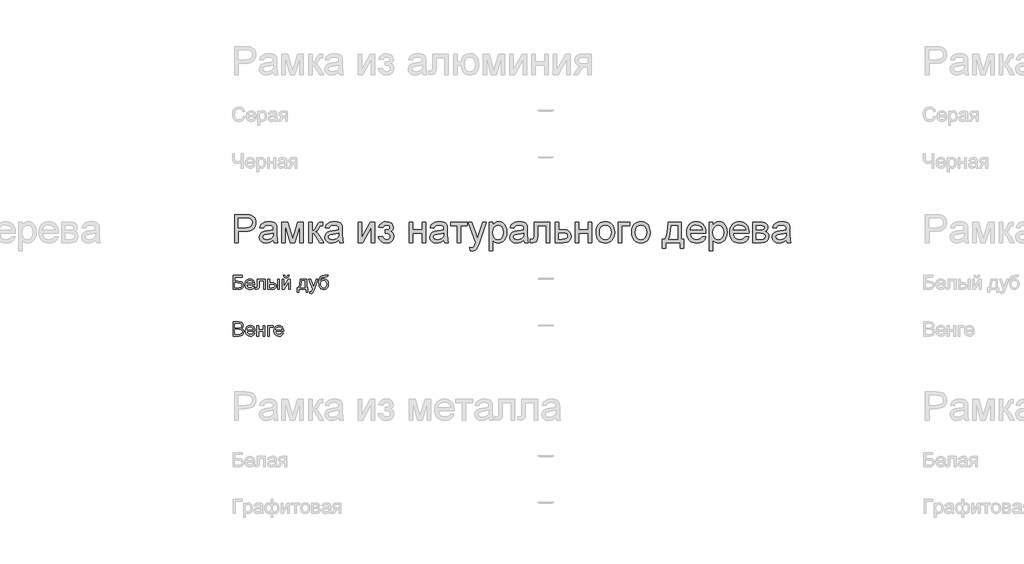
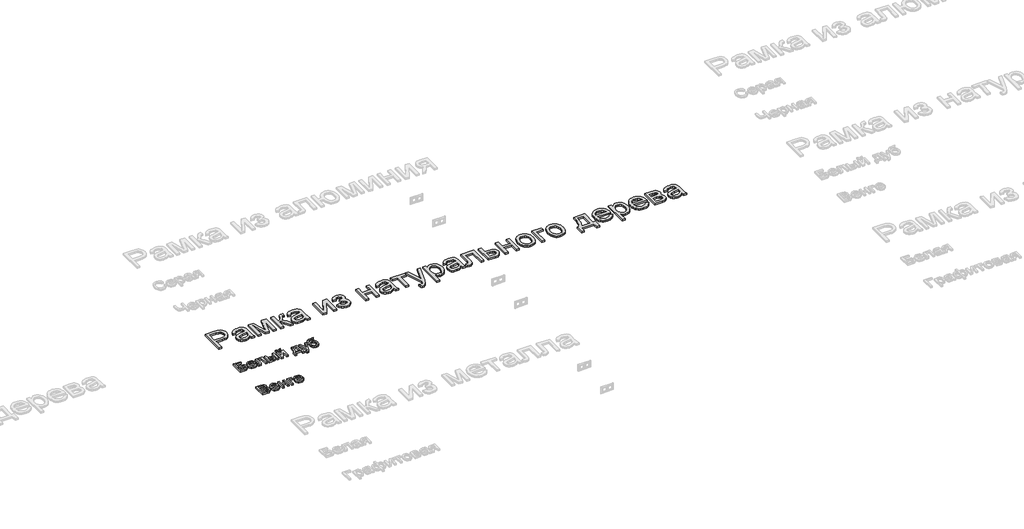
# One storey, part 114 of 168: 3 proxies.
"""IFC4 building model written with IfcOpenShell, lengths in millimetres."""

import ifcopenshell
import ifcopenshell.guid

model = None  # the IFC model being written
_history = None  # IfcOwnerHistory: only IFC2X3 demands one
_inside = {}  # id of a spatial element -> (the spatial element, [elements in it])
_under = {}  # id of a project, library or spatial element -> (it, [spatial elements below it])
_declared = {}  # id of a project -> (the project, [libraries it declares])
_typed = {}  # id of a type object -> (the type object, [elements of that type])
_made_of = {}  # id of a material, layer set ... -> (it, [elements and type objects made of it])


def new_model(schema):
    """Start an empty IFC model of exactly this schema.

    Asked for "IFC4X3", IfcOpenShell would pick the latest addendum, in which some entities
    have other attributes; the version numbers below select the first issue.
    IFC2X3 requires an IfcOwnerHistory on every rooted entity: one is made here for all.
    """
    global model, _history
    if schema == "IFC4X3":
        model = ifcopenshell.file(schema_version=(4, 3, 0, 0))
    else:
        model = ifcopenshell.file(schema=schema)
    _inside.clear()
    _under.clear()
    _declared.clear()
    _typed.clear()
    _made_of.clear()
    _history = None
    if model.schema == "IFC2X3":
        org = make("IfcOrganization", Name="unknown")
        user = make(
            "IfcPersonAndOrganization",
            ThePerson=make("IfcPerson", FamilyName="unknown"),
            TheOrganization=org,
        )
        app = make(
            "IfcApplication",
            ApplicationDeveloper=org,
            Version="unknown",
            ApplicationFullName="unknown",
            ApplicationIdentifier="unknown",
        )
        _history = make(
            "IfcOwnerHistory",
            OwningUser=user,
            OwningApplication=app,
            ChangeAction="ADDED",
            CreationDate=0,
        )
    return model


def make(cls, **values):
    """One entity of the class cls with the attributes given. An attribute that is None is left unset."""
    return model.create_entity(
        cls, **{name: value for name, value in values.items() if value is not None}
    )


def rooted(cls, **values):
    """An entity with a GlobalId (a new one), such as an element, a storey or a relation."""
    return make(cls, GlobalId=ifcopenshell.guid.new(), OwnerHistory=_history, **values)


def si_unit(unit_type, name, prefix=None):
    """IfcSIUnit, for example si_unit("LENGTHUNIT", "METRE", prefix="MILLI")."""
    return make("IfcSIUnit", UnitType=unit_type, Prefix=prefix, Name=name)


def assignment(units):
    """IfcUnitAssignment: the units of a project."""
    return None if units is None else make("IfcUnitAssignment", Units=units)


def point(xyz):
    """IfcCartesianPoint."""
    return None if xyz is None else make("IfcCartesianPoint", Coordinates=xyz)


def direction(xyz):
    """IfcDirection."""
    return None if xyz is None else make("IfcDirection", DirectionRatios=xyz)


def frame(location, z_axis=None, x_axis=None):
    """IfcAxis2Placement3D, a coordinate frame: its origin and axes. An axis left out is left unset."""
    return make(
        "IfcAxis2Placement3D",
        Location=point(location),
        Axis=direction(z_axis),
        RefDirection=direction(x_axis),
    )


def origin():
    """The frame at (0, 0, 0) with its axes left unset."""
    return frame((0.0, 0.0, 0.0))


def origin_with_axes():
    """The frame at (0, 0, 0) with the z axis (0, 0, 1) and the x axis (1, 0, 0) written out."""
    return frame((0.0, 0.0, 0.0), z_axis=(0.0, 0.0, 1.0), x_axis=(1.0, 0.0, 0.0))


def place(relative_to, where):
    """IfcLocalPlacement: puts the frame where relative to a parent placement (None: the world)."""
    return make(
        "IfcLocalPlacement", PlacementRelTo=relative_to, RelativePlacement=where
    )


def context(
    kind, dimensions, precision=None, world=None, true_north=None, identifier=None
):
    """IfcGeometricRepresentationContext, for example the 3D "Model" context."""
    return make(
        "IfcGeometricRepresentationContext",
        ContextIdentifier=identifier,
        ContextType=kind,
        CoordinateSpaceDimension=dimensions,
        Precision=precision,
        WorldCoordinateSystem=world,
        TrueNorth=true_north,
    )


def project(units=None, contexts=None):
    """IfcProject with its units and contexts."""
    return rooted(
        "IfcProject",
        Name="project",
        RepresentationContexts=contexts,
        UnitsInContext=assignment(units),
    )


def spatial(cls, under=None, at=None, **own):
    """A site, building, storey or space (cls), placed at a placement, below another one or the project."""
    s = rooted(cls, ObjectPlacement=at, **own)
    if under is not None:
        _under.setdefault(under.id(), (under, []))[1].append(s)
    return s


def polyline(points):
    """IfcPolyline through the points."""
    return make("IfcPolyline", Points=[point(p) for p in points])


def outline(outer, holes=None, kind="AREA"):
    """IfcArbitraryClosedProfileDef: a profile drawn as a closed curve; with holes, ...WithVoids."""
    if holes is None:
        return make("IfcArbitraryClosedProfileDef", ProfileType=kind, OuterCurve=outer)
    return make(
        "IfcArbitraryProfileDefWithVoids",
        ProfileType=kind,
        OuterCurve=outer,
        InnerCurves=holes,
    )


def extrude(swept, where, along, depth):
    """IfcExtrudedAreaSolid: the profile swept, set in the frame where, extruded along a direction by depth."""
    return make(
        "IfcExtrudedAreaSolid",
        SweptArea=swept,
        Position=where,
        ExtrudedDirection=direction(along),
        Depth=depth,
    )


def shape(context_of_items, identifier, shape_type, items):
    """IfcShapeRepresentation: the items that make up one representation, for example the "Body"."""
    return make(
        "IfcShapeRepresentation",
        ContextOfItems=context_of_items,
        RepresentationIdentifier=identifier,
        RepresentationType=shape_type,
        Items=items,
    )


def made_of(thing, what):
    """Note that an element or type object is made of a material, layer set ...; save() writes the relation."""
    if what is not None:
        _made_of.setdefault(what.id(), (what, []))[1].append(thing)
    return thing


def element(
    cls,
    number,
    at=None,
    inside=None,
    cuts=None,
    type_object=None,
    material=None,
    context=None,
    identifier="Body",
    shape_type=None,
    held_by="IfcProductDefinitionShape",
    body=None,
    shapes=None,
    **own,
):
    """One element of the class cls, such as IfcWall. Its Tag is "e" and its number.

    at: its placement. inside: the storey or other place that contains it. cuts: it is an
    opening in that element (IfcRelVoidsElement). A single representation is given by context,
    identifier, shape_type and body (its items); several are given by shapes. held_by: the class
    of the entity that holds the representations. save() writes the other relations.
    """
    e = rooted(cls, Tag="e%d" % number, ObjectPlacement=at, **own)
    if body is not None:
        shapes = [shape(context, identifier, shape_type, body)]
    if shapes is not None:
        e.Representation = make(held_by, Representations=shapes)
    if inside is not None:
        _inside.setdefault(inside.id(), (inside, []))[1].append(e)
    if cuts is not None:
        rooted(
            "IfcRelVoidsElement", RelatingBuildingElement=cuts, RelatedOpeningElement=e
        )
    if type_object is not None:
        _typed.setdefault(type_object.id(), (type_object, []))[1].append(e)
    return made_of(e, material)


def aggregate(whole, parts):
    """IfcRelAggregates: a whole, such as a stair, and the parts it consists of."""
    return rooted("IfcRelAggregates", RelatingObject=whole, RelatedObjects=parts)


def save(model, path):
    """Write the relations noted so far, then the file.

    IfcRelAggregates (storeys below a building ...), IfcRelContainedInSpatialStructure (elements
    in a storey), IfcRelDefinesByType, IfcRelAssociatesMaterial and IfcRelDeclares: one each for
    every whole, place, type object, material and project.
    """
    for whole, parts in _under.values():
        aggregate(whole, parts)
    for where, things in _inside.values():
        rooted(
            "IfcRelContainedInSpatialStructure",
            RelatedElements=things,
            RelatingStructure=where,
        )
    for kind, things in _typed.values():
        rooted("IfcRelDefinesByType", RelatedObjects=things, RelatingType=kind)
    for what, things in _made_of.values():
        rooted("IfcRelAssociatesMaterial", RelatedObjects=things, RelatingMaterial=what)
    for by, libraries in _declared.values():
        rooted("IfcRelDeclares", RelatingContext=by, RelatedDefinitions=libraries)
    model.write(path)


model = new_model("IFC4")

# Units and contexts
model_context = context("Model", 3, world=origin())
ifc_project = project(units=[si_unit("LENGTHUNIT", "METRE", prefix="MILLI")], contexts=[model_context])

# Site, building, storey
site = spatial("IfcSite", under=ifc_project)
building = spatial("IfcBuilding", under=site)
storey = spatial("IfcBuildingStorey", under=building, Name="Этаж 01", Elevation=0.0)

# Proxies
placement = place(None, origin())
element("IfcBuildingElementProxy", 1, Name="300 мм Arial 2", ObjectType="300 мм Arial 2", at=placement, inside=storey, context=model_context, shape_type="SweptSolid", body=[
    extrude(outline(polyline([(40299.0945017, -10648.4056816), (40299.0945017, -10347.0367511), (40410.7834754, -10347.0367511), (40455.8122316, -10349.9062307), (40475.8893915, -10355.2681108), (40492.4164901, -10363.9961111), (40505.7246213, -10376.4857048), (40516.1448788, -10393.1323651), (40522.8771193, -10412.7680666), (40525.1211995, -10434.224784), (40523.6059855, -10452.7246498), (40519.0603436, -10469.7437906), (40511.4842738, -10485.2822064), (40500.877776, -10499.3398971), (40486.3165468, -10510.9925593), (40466.8762826, -10519.3158895), (40442.5569835, -10524.3098875), (40413.3586494, -10525.9745536), (40336.765618, -10525.9745536), (40336.765618, -10648.4056816), (40299.0945017, -10648.4056816)]), holes=[polyline([(40336.765618, -10488.3034373), (40415.5659413, -10488.3034373), (40448.9696265, -10484.8453465), (40471.0425462, -10474.4710742), (40483.3481989, -10457.824414), (40487.4500832, -10435.5491592), (40485.0312591, -10418.6265874), (40477.7747867, -10404.352766), (40466.581977, -10393.6106117), (40452.3541408, -10387.2830414), (40414.6830245, -10384.7078674), (40336.765618, -10384.7078674), (40336.765618, -10488.3034373)])]), origin_with_axes(), (0.0, 0.0, 1.0), 20.0),
    extrude(outline(polyline([(40713.476781, -10620.1523443), (40695.4781544, -10635.584994), (40676.9460989, -10645.6833548), (40657.4575502, -10651.256767), (40636.589444, -10653.1145711), (40605.1079423, -10648.6448049), (40581.8853914, -10635.2355061), (40567.5655847, -10614.8732377), (40562.7923158, -10589.5445623), (40564.5949376, -10573.9279716), (40570.0028029, -10559.7461207), (40578.3445271, -10547.6060149), (40588.9487257, -10538.1146594), (40615.3258647, -10525.7538244), (40647.9202095, -10520.0884417), (40686.4374544, -10514.1287533), (40713.2560518, -10507.1389954), (40713.476781, -10498.7512859), (40710.883213, -10481.9390788), (40703.1025088, -10470.9394071), (40685.7016904, -10462.7724268), (40661.4582669, -10460.0501), (40639.0174652, -10461.8619189), (40623.3456922, -10467.2973753), (40612.6587202, -10477.3497509), (40605.1723216, -10493.0123268), (40567.5012053, -10488.3034373), (40574.0403078, -10467.7020455), (40583.7983777, -10451.5152378), (40597.685923, -10439.1360086), (40616.6134517, -10429.9573528), (40639.7624262, -10424.273576), (40666.3143092, -10422.3789837), (40691.7809404, -10424.0528468), (40711.9684648, -10429.074436), (40727.1895824, -10436.625214), (40737.7569927, -10445.8866432), (40744.7651447, -10457.3369703), (40749.3084874, -10471.4544419), (40751.1478973, -10504.4166687), (40751.1478973, -10551.2848348), (40753.0608837, -10616.7310418), (40760.5656764, -10648.4056816), (40722.8945601, -10648.4056816), (40713.476781, -10620.1523443)]), holes=[polyline([(40713.476781, -10544.8101117), (40652.7026754, -10556.3616064), (40620.2922716, -10562.4684475), (40605.61378, -10572.4012614), (40600.4634321, -10586.895812), (40603.2685323, -10598.0978187), (40611.683833, -10607.2764745), (40625.525393, -10613.4017097), (40644.6092715, -10615.4434548), (40664.8427813, -10613.1901776), (40682.7218462, -10606.4303459), (40697.2163968, -10596.4699409), (40707.2963635, -10584.6149436), (40711.7661297, -10572.4012614), (40713.2560518, -10555.4786896), (40713.476781, -10544.8101117)])]), origin_with_axes(), (0.0, 0.0, 1.0), 20.0),
    extrude(outline(polyline([(40802.9456823, -10427.0878733), (40867.7664898, -10427.0878733), (40917.7248647, -10604.2598421), (40971.5827888, -10427.0878733), (41033.6812696, -10427.0878733), (41033.6812696, -10648.4056816), (40996.0101533, -10648.4056816), (40996.0101533, -10470.2036431), (40941.8579236, -10648.4056816), (40892.4145835, -10648.4056816), (40840.6167986, -10461.6687808), (40840.6167986, -10648.4056816), (40802.9456823, -10648.4056816), (40802.9456823, -10427.0878733)])), origin_with_axes(), (0.0, 0.0, 1.0), 20.0),
    extrude(outline(polyline([(41090.1879441, -10427.0878733), (41127.8590604, -10427.0878733), (41127.8590604, -10521.265664), (41143.1813455, -10519.5734069), (41153.0957653, -10514.4966353), (41161.8697508, -10501.2528835), (41173.7707334, -10475.0596854), (41190.9508226, -10441.0306009), (41206.1075608, -10429.9573528), (41233.6619222, -10427.0878733), (41240.8724093, -10427.0878733), (41240.8724093, -10464.9797188), (41230.7188662, -10464.7589896), (41212.3247665, -10468.7321151), (41199.3753203, -10493.5273616), (41184.1817939, -10520.345959), (41162.8814263, -10533.4793463), (41174.8191971, -10538.7814455), (41186.6466032, -10548.1394438), (41209.9703217, -10579.0231373), (41250.2901884, -10648.4056816), (41207.4687241, -10648.4056816), (41167.9581979, -10580.4946653), (41148.0925701, -10551.7630814), (41138.8035497, -10546.5483542), (41127.8590604, -10544.8101117), (41127.8590604, -10648.4056816), (41090.1879441, -10648.4056816), (41090.1879441, -10427.0878733)])), origin_with_axes(), (0.0, 0.0, 1.0), 20.0),
    extrude(outline(polyline([(41415.1013222, -10620.1523443), (41397.1026956, -10635.584994), (41378.5706401, -10645.6833548), (41359.0820914, -10651.256767), (41338.2139852, -10653.1145711), (41306.7324835, -10648.6448049), (41283.5099326, -10635.2355061), (41269.1901259, -10614.8732377), (41264.416857, -10589.5445623), (41266.2194788, -10573.9279716), (41271.6273441, -10559.7461207), (41279.9690683, -10547.6060149), (41290.5732669, -10538.1146594), (41316.9504059, -10525.7538244), (41349.5447507, -10520.0884417), (41388.0619956, -10514.1287533), (41414.880593, -10507.1389954), (41415.1013222, -10498.7512859), (41412.5077542, -10481.9390788), (41404.72705, -10470.9394071), (41387.3262316, -10462.7724268), (41363.0828081, -10460.0501), (41340.6420064, -10461.8619189), (41324.9702334, -10467.2973753), (41314.2832614, -10477.3497509), (41306.7968628, -10493.0123268), (41269.1257465, -10488.3034373), (41275.664849, -10467.7020455), (41285.4229189, -10451.5152378), (41299.3104642, -10439.1360086), (41318.2379929, -10429.9573528), (41341.3869674, -10424.273576), (41367.9388504, -10422.3789837), (41393.4054816, -10424.0528468), (41413.593006, -10429.074436), (41428.8141236, -10436.625214), (41439.3815339, -10445.8866432), (41446.3896859, -10457.3369703), (41450.9330286, -10471.4544419), (41452.7724385, -10504.4166687), (41452.7724385, -10551.2848348), (41454.6854249, -10616.7310418), (41462.1902176, -10648.4056816), (41424.5191013, -10648.4056816), (41415.1013222, -10620.1523443)]), holes=[polyline([(41415.1013222, -10544.8101117), (41354.3272166, -10556.3616064), (41321.9168128, -10562.4684475), (41307.2383212, -10572.4012614), (41302.0879733, -10586.895812), (41304.8930735, -10598.0978187), (41313.3083742, -10607.2764745), (41327.1499342, -10613.4017097), (41346.2338127, -10615.4434548), (41366.4673225, -10613.1901776), (41384.3463874, -10606.4303459), (41398.840938, -10596.4699409), (41408.9209047, -10584.6149436), (41413.3906709, -10572.4012614), (41414.880593, -10555.4786896), (41415.1013222, -10544.8101117)])]), origin_with_axes(), (0.0, 0.0, 1.0), 20.0),
    extrude(outline(polyline([(41622.2924619, -10427.0878733), (41659.9635782, -10427.0878733), (41659.9635782, -10595.8721327), (41752.5226882, -10427.0878733), (41801.2302644, -10427.0878733), (41801.2302644, -10648.4056816), (41763.5591481, -10648.4056816), (41763.5591481, -10480.6514918), (41671.5886493, -10648.4056816), (41622.2924619, -10648.4056816), (41622.2924619, -10427.0878733)])), origin_with_axes(), (0.0, 0.0, 1.0), 20.0),
    extrude(outline(polyline([(41909.5347237, -10549.5190013), (41909.5347237, -10511.847885), (41939.259589, -10510.376357), (41954.2691744, -10502.5404705), (41959.5666751, -10495.1920276), (41961.3325087, -10486.1697217), (41958.9688668, -10475.4551586), (41951.8779414, -10467.1502225), (41941.0530137, -10461.8251307), (41927.4873651, -10460.0501), (41913.7745637, -10461.8159336), (41902.2874484, -10467.1134343), (41893.0260192, -10475.9426022), (41885.9902761, -10488.3034373), (41843.6102702, -10483.5945477), (41854.8490652, -10456.8127385), (41871.9371838, -10437.6828747), (41894.8746262, -10426.2049565), (41923.6613924, -10422.3789837), (41955.1520911, -10427.041888), (41978.9908444, -10441.0306009), (41994.0004298, -10461.4940369), (41999.003625, -10485.5811105), (41997.2239958, -10497.9419455), (41991.8851084, -10508.9784054), (41982.9869626, -10518.6904901), (41970.5295585, -10527.0781996), (41985.0700944, -10537.5444423), (41995.4351696, -10550.5490709), (42001.6431783, -10566.1288733), (42003.7125145, -10584.320638), (41998.460999, -10612.0497434), (41982.7064526, -10634.0214956), (41957.515733, -10648.3413022), (41923.955698, -10653.1145711), (41891.1314269, -10648.6999872), (41866.0142837, -10635.4562353), (41848.6042683, -10613.3833156), (41838.9013807, -10582.481228), (41881.2813865, -10577.7723385), (41887.6273509, -10593.7016289), (41898.2775347, -10605.5842173), (41911.9995331, -10612.9786454), (41927.5609415, -10615.4434548), (41942.7176797, -10613.079813), (41955.0785147, -10605.9888875), (41963.3006773, -10595.2191421), (41966.0413982, -10581.8190404), (41964.339944, -10571.2056449), (41959.2355813, -10562.0269891), (41944.7410307, -10551.4319876), (41916.8923636, -10549.2982721), (41909.5347237, -10549.5190013)])), origin_with_axes(), (0.0, 0.0, 1.0), 20.0),
    extrude(outline(polyline([(42168.5236483, -10427.0878733), (42206.1947647, -10427.0878733), (42206.1947647, -10511.847885), (42305.081445, -10511.847885), (42305.081445, -10427.0878733), (42342.7525613, -10427.0878733), (42342.7525613, -10648.4056816), (42305.081445, -10648.4056816), (42305.081445, -10549.5190013), (42206.1947647, -10549.5190013), (42206.1947647, -10648.4056816), (42168.5236483, -10648.4056816), (42168.5236483, -10427.0878733)])), origin_with_axes(), (0.0, 0.0, 1.0), 20.0),
    extrude(outline(polyline([(42540.5259219, -10620.1523443), (42522.5272953, -10635.584994), (42503.9952397, -10645.6833548), (42484.5066911, -10651.256767), (42463.6385849, -10653.1145711), (42432.1570831, -10648.6448049), (42408.9345322, -10635.2355061), (42394.6147255, -10614.8732377), (42389.8414566, -10589.5445623), (42391.6440784, -10573.9279716), (42397.0519438, -10559.7461207), (42405.393668, -10547.6060149), (42415.9978665, -10538.1146594), (42442.3750056, -10525.7538244), (42474.9693503, -10520.0884417), (42513.4865952, -10514.1287533), (42540.3051927, -10507.1389954), (42540.5259219, -10498.7512859), (42537.9323538, -10481.9390788), (42530.1516496, -10470.9394071), (42512.7508312, -10462.7724268), (42488.5074078, -10460.0501), (42466.066606, -10461.8619189), (42450.3948331, -10467.2973753), (42439.7078611, -10477.3497509), (42432.2214625, -10493.0123268), (42394.5503462, -10488.3034373), (42401.0894486, -10467.7020455), (42410.8475186, -10451.5152378), (42424.7350639, -10439.1360086), (42443.6625925, -10429.9573528), (42466.8115671, -10424.273576), (42493.3634501, -10422.3789837), (42518.8300812, -10424.0528468), (42539.0176057, -10429.074436), (42554.2387232, -10436.625214), (42564.8061336, -10445.8866432), (42571.8142856, -10457.3369703), (42576.3576282, -10471.4544419), (42578.1970382, -10504.4166687), (42578.1970382, -10551.2848348), (42580.1100246, -10616.7310418), (42587.6148173, -10648.4056816), (42549.9437009, -10648.4056816), (42540.5259219, -10620.1523443)]), holes=[polyline([(42540.5259219, -10544.8101117), (42479.7518163, -10556.3616064), (42447.3414125, -10562.4684475), (42432.6629209, -10572.4012614), (42427.512573, -10586.895812), (42430.3176732, -10598.0978187), (42438.7329738, -10607.2764745), (42452.5745339, -10613.4017097), (42471.6584124, -10615.4434548), (42491.8919221, -10613.1901776), (42509.7709871, -10606.4303459), (42524.2655377, -10596.4699409), (42534.3455044, -10584.6149436), (42538.8152706, -10572.4012614), (42540.3051927, -10555.4786896), (42540.5259219, -10544.8101117)])]), origin_with_axes(), (0.0, 0.0, 1.0), 20.0),
    extrude(outline(polyline([(42611.1592649, -10427.0878733), (42790.0970674, -10427.0878733), (42790.0970674, -10464.7589896), (42719.4637243, -10464.7589896), (42719.4637243, -10648.4056816), (42681.792608, -10648.4056816), (42681.792608, -10464.7589896), (42611.1592649, -10464.7589896), (42611.1592649, -10427.0878733)])), origin_with_axes(), (0.0, 0.0, 1.0), 20.0),
    extrude(outline(polyline([(42823.0592942, -10733.1656933), (42818.3504046, -10696.8925285), (42837.4802684, -10700.2034665), (42855.3593333, -10696.0463999), (42866.3222168, -10684.4581171), (42876.6229127, -10656.7198147), (42879.5659686, -10647.5963412), (42799.5148465, -10427.0878733), (42839.246102, -10427.0878733), (42881.6996842, -10549.9604597), (42896.4885404, -10599.1094942), (42911.2773966, -10555.6994188), (42954.9082012, -10427.0878733), (42994.3451511, -10427.0878733), (42917.3106613, -10653.7031823), (42897.2978808, -10702.8522169), (42887.0523672, -10718.5423839), (42875.4456903, -10729.4132969), (42861.9628152, -10735.7592613), (42846.0887071, -10737.8745828), (42823.0592942, -10733.1656933)])), origin_with_axes(), (0.0, 0.0, 1.0), 20.0),
    extrude(outline(polyline([(43025.5415443, -10733.1656933), (43025.5415443, -10427.0878733), (43063.2126606, -10427.0878733), (43063.2126606, -10464.0232256), (43075.4999193, -10445.8038698), (43089.2587059, -10432.7900442), (43105.2983609, -10424.9817488), (43124.4282246, -10422.3789837), (43149.9040528, -10426.0210155), (43172.1793076, -10436.9471107), (43190.31589, -10454.4950819), (43203.3757008, -10478.0027414), (43211.2667696, -10505.7594379), (43213.8971258, -10536.0545202), (43210.9264787, -10568.271786), (43202.0145374, -10597.0861432), (43187.4464104, -10621.0352611), (43167.5072063, -10638.6568087), (43144.2846553, -10649.5001305), (43119.8664879, -10653.1145711), (43102.548443, -10650.695747), (43087.0882021, -10643.4392746), (43073.8536473, -10632.4855882), (43063.2126606, -10618.975122), (43063.2126606, -10733.1656933), (43025.5415443, -10733.1656933)]), holes=[polyline([(43063.2126606, -10539.512611), (43067.2869537, -10573.2841782), (43079.509833, -10596.9022022), (43097.5452478, -10610.8081417), (43119.0571475, -10615.4434548), (43140.918535, -10610.6425948), (43159.4138024, -10596.2400147), (43172.0229577, -10571.7574679), (43176.2260095, -10536.7167078), (43172.1241253, -10503.1290817), (43159.8184726, -10479.1799638), (43141.8106489, -10464.832566), (43120.6022519, -10460.0501), (43099.3110814, -10465.1360686), (43080.613479, -10480.3939744), (43067.5628652, -10505.3455707), (43063.2126606, -10539.512611)])]), origin_with_axes(), (0.0, 0.0, 1.0), 20.0),
    extrude(outline(polyline([(43397.5438178, -10620.1523443), (43379.5451912, -10635.584994), (43361.0131357, -10645.6833548), (43341.524587, -10651.256767), (43320.6564808, -10653.1145711), (43289.1749791, -10648.6448049), (43265.9524282, -10635.2355061), (43251.6326215, -10614.8732377), (43246.8593526, -10589.5445623), (43248.6619744, -10573.9279716), (43254.0698397, -10559.7461207), (43262.411564, -10547.6060149), (43273.0157625, -10538.1146594), (43299.3929015, -10525.7538244), (43331.9872463, -10520.0884417), (43370.5044912, -10514.1287533), (43397.3230886, -10507.1389954), (43397.5438178, -10498.7512859), (43394.9502498, -10481.9390788), (43387.1695456, -10470.9394071), (43369.7687272, -10462.7724268), (43345.5253037, -10460.0501), (43323.084502, -10461.8619189), (43307.412729, -10467.2973753), (43296.7257571, -10477.3497509), (43289.2393585, -10493.0123268), (43251.5682421, -10488.3034373), (43258.1073446, -10467.7020455), (43267.8654145, -10451.5152378), (43281.7529599, -10439.1360086), (43300.6804885, -10429.9573528), (43323.8294631, -10424.273576), (43350.3813461, -10422.3789837), (43375.8479772, -10424.0528468), (43396.0355017, -10429.074436), (43411.2566192, -10436.625214), (43421.8240295, -10445.8866432), (43428.8321815, -10457.3369703), (43433.3755242, -10471.4544419), (43435.2149341, -10504.4166687), (43435.2149341, -10551.2848348), (43437.1279205, -10616.7310418), (43444.6327132, -10648.4056816), (43406.9615969, -10648.4056816), (43397.5438178, -10620.1523443)]), holes=[polyline([(43397.5438178, -10544.8101117), (43336.7697122, -10556.3616064), (43304.3593085, -10562.4684475), (43289.6808168, -10572.4012614), (43284.5304689, -10586.895812), (43287.3355691, -10598.0978187), (43295.7508698, -10607.2764745), (43309.5924298, -10613.4017097), (43328.6763083, -10615.4434548), (43348.9098181, -10613.1901776), (43366.788883, -10606.4303459), (43381.2834336, -10596.4699409), (43391.3634003, -10584.6149436), (43395.8331666, -10572.4012614), (43397.3230886, -10555.4786896), (43397.5438178, -10544.8101117)])]), origin_with_axes(), (0.0, 0.0, 1.0), 20.0),
    extrude(outline(polyline([(43505.8482772, -10427.0878733), (43675.3683006, -10427.0878733), (43675.3683006, -10648.1849524), (43637.6971843, -10648.1849524), (43637.6971843, -10464.7589896), (43543.5193935, -10464.7589896), (43543.5193935, -10570.3411222), (43540.9810078, -10619.0486984), (43536.226133, -10630.0759612), (43527.0382801, -10639.6133019), (43513.0955525, -10646.2075866), (43494.0760534, -10648.4056816), (43463.4682714, -10646.4926952), (43463.4682714, -10610.7345653), (43480.3172667, -10610.7345653), (43497.3502031, -10608.4169087), (43504.15602, -10601.0592688), (43505.8482772, -10568.2074066), (43505.8482772, -10427.0878733)])), origin_with_axes(), (0.0, 0.0, 1.0), 20.0),
    extrude(outline(polyline([(43731.8749751, -10427.0878733), (43769.5460914, -10427.0878733), (43769.5460914, -10507.1389954), (43812.9561668, -10507.1389954), (43850.5904949, -10511.857082), (43865.738036, -10517.7546902), (43878.4391619, -10526.0113418), (43888.4823404, -10536.3419281), (43895.6560393, -10548.4613405), (43901.3949984, -10578.0666441), (43896.5113649, -10605.0231973), (43881.8604645, -10627.7675016), (43870.6285673, -10636.7967054), (43856.4674098, -10643.2461366), (43819.3573135, -10648.4056816), (43731.8749751, -10648.4056816), (43731.8749751, -10427.0878733)]), holes=[polyline([(43769.5460914, -10610.7345653), (43804.7156101, -10610.7345653), (43832.0032571, -10608.7571995), (43850.1490365, -10602.8251024), (43860.3301707, -10592.6991504), (43863.7238821, -10578.1402205), (43861.2130875, -10565.8345678), (43853.6807037, -10554.9636548), (43837.5398811, -10547.3484975), (43809.2037704, -10544.8101117), (43769.5460914, -10544.8101117), (43769.5460914, -10610.7345653)])]), origin_with_axes(), (0.0, 0.0, 1.0), 20.0),
    extrude(outline(polyline([(43948.4838938, -10427.0878733), (43986.1550101, -10427.0878733), (43986.1550101, -10511.847885), (44085.0416904, -10511.847885), (44085.0416904, -10427.0878733), (44122.7128067, -10427.0878733), (44122.7128067, -10648.4056816), (44085.0416904, -10648.4056816), (44085.0416904, -10549.5190013), (43986.1550101, -10549.5190013), (43986.1550101, -10648.4056816), (43948.4838938, -10648.4056816), (43948.4838938, -10427.0878733)])), origin_with_axes(), (0.0, 0.0, 1.0), 20.0),
    extrude(outline(polyline([(44169.8017021, -10537.7467774), (44171.8388487, -10509.0841715), (44177.9502883, -10484.385494), (44188.136021, -10463.6507451), (44202.3960469, -10446.8799246), (44216.7526417, -10436.160763), (44232.5991587, -10428.504219), (44249.9355977, -10423.9102925), (44268.7619588, -10422.3789837), (44289.5449923, -10424.2436856), (44308.3368644, -10429.8377912), (44325.1375753, -10439.1613005), (44339.9471249, -10452.2142135), (44352.0343477, -10468.5550719), (44360.6680783, -10487.7424172), (44365.8483166, -10509.7762495), (44367.5750627, -10534.6565687), (44364.5216422, -10572.7139611), (44355.3613805, -10601.6846682), (44340.3609921, -10623.3805088), (44319.7871915, -10639.6133019), (44295.35063, -10649.7392538), (44268.7619588, -10653.1145711), (44247.6754227, -10651.256767), (44228.7088066, -10645.6833548), (44211.8621105, -10636.3943344), (44197.1353344, -10623.3897059), (44185.1768702, -10606.8901984), (44176.6351102, -10587.1165412), (44171.5100541, -10564.0687342), (44169.8017021, -10537.7467774)]), holes=[polyline([(44207.4728184, -10537.673201), (44211.8322201, -10571.7666649), (44224.910425, -10596.0560737), (44244.5921117, -10610.5966095), (44268.7619588, -10615.4434548), (44292.8214413, -10610.5690184), (44312.4663398, -10595.9457091), (44325.5445448, -10571.3344036), (44329.9039464, -10536.4959786), (44325.5169536, -10503.3957961), (44312.3559752, -10479.4374812), (44292.6834855, -10464.8969453), (44268.7619588, -10460.0501), (44244.5921117, -10464.8785512), (44224.910425, -10479.3639048), (44211.8322201, -10503.5981312), (44207.4728184, -10537.673201)])]), origin_with_axes(), (0.0, 0.0, 1.0), 20.0),
    extrude(outline(polyline([(44409.9550686, -10427.0878733), (44532.3861966, -10427.0878733), (44532.3861966, -10464.7589896), (44447.6261849, -10464.7589896), (44447.6261849, -10648.4056816), (44409.9550686, -10648.4056816), (44409.9550686, -10427.0878733)])), origin_with_axes(), (0.0, 0.0, 1.0), 20.0),
    extrude(outline(polyline([(44551.2217547, -10537.7467774), (44553.2589013, -10509.0841715), (44559.3703409, -10484.385494), (44569.5560736, -10463.6507451), (44583.8160995, -10446.8799246), (44598.1726943, -10436.160763), (44614.0192113, -10428.504219), (44631.3556503, -10423.9102925), (44650.1820114, -10422.3789837), (44670.9650449, -10424.2436856), (44689.756917, -10429.8377912), (44706.5576279, -10439.1613005), (44721.3671775, -10452.2142135), (44733.4544003, -10468.5550719), (44742.0881309, -10487.7424172), (44747.2683692, -10509.7762495), (44748.9951153, -10534.6565687), (44745.9416948, -10572.7139611), (44736.7814331, -10601.6846682), (44721.7810447, -10623.3805088), (44701.2072441, -10639.6133019), (44676.7706826, -10649.7392538), (44650.1820114, -10653.1145711), (44629.0954753, -10651.256767), (44610.1288592, -10645.6833548), (44593.2821631, -10636.3943344), (44578.555387, -10623.3897059), (44566.5969228, -10606.8901984), (44558.0551628, -10587.1165412), (44552.9301067, -10564.0687342), (44551.2217547, -10537.7467774)]), holes=[polyline([(44588.892871, -10537.673201), (44593.2522727, -10571.7666649), (44606.3304776, -10596.0560737), (44626.0121643, -10610.5966095), (44650.1820114, -10615.4434548), (44674.2414939, -10610.5690184), (44693.8863924, -10595.9457091), (44706.9645974, -10571.3344036), (44711.323999, -10536.4959786), (44706.9370062, -10503.3957961), (44693.7760278, -10479.4374812), (44674.1035381, -10464.8969453), (44650.1820114, -10460.0501), (44626.0121643, -10464.8785512), (44606.3304776, -10479.3639048), (44593.2522727, -10503.5981312), (44588.892871, -10537.673201)])]), origin_with_axes(), (0.0, 0.0, 1.0), 20.0),
    extrude(outline(polyline([(44942.0595864, -10427.0878733), (45083.3262725, -10427.0878733), (45083.3262725, -10610.7345653), (45111.5796098, -10610.7345653), (45111.5796098, -10709.6212456), (45073.9084935, -10709.6212456), (45073.9084935, -10648.4056816), (44918.5151387, -10648.4056816), (44918.5151387, -10709.6212456), (44880.8440224, -10709.6212456), (44880.8440224, -10610.7345653), (44904.3884701, -10610.7345653), (44921.5041799, -10579.8048865), (44933.4879359, -10538.8872116), (44940.3397381, -10487.9815405), (44942.0595864, -10427.0878733)]), holes=[polyline([(44975.0218132, -10464.7589896), (44971.9316044, -10510.8821947), (44966.1926453, -10550.5858591), (44957.8049358, -10583.8699826), (44946.7684759, -10610.7345653), (45045.6551562, -10610.7345653), (45045.6551562, -10464.7589896), (44975.0218132, -10464.7589896)])]), origin_with_axes(), (0.0, 0.0, 1.0), 20.0),
    extrude(outline(polyline([(45308.911512, -10582.481228), (45345.8468643, -10587.1901176), (45332.5387331, -10615.0203905), (45311.3027449, -10635.8241173), (45282.6171464, -10648.7919577), (45246.960184, -10653.1145711), (45223.5858817, -10651.2498692), (45202.7591623, -10645.6557637), (45184.4800256, -10636.3322543), (45168.7484718, -10623.2793413), (45156.0979297, -10606.860308), (45147.0618282, -10587.4384379), (45141.6401673, -10565.013731), (45139.832947, -10539.5861874), (45141.6585614, -10513.2964203), (45147.1354046, -10490.1244531), (45156.2634766, -10470.0702859), (45169.0427774, -10453.1339185), (45184.7329445, -10439.6786346), (45202.5936154, -10430.0677174), (45222.62479, -10424.3011672), (45244.8264684, -10422.3789837), (45266.3130762, -10424.2965686), (45285.7441433, -10430.0493233), (45303.1196698, -10439.6372478), (45318.4396557, -10453.0603421), (45330.9453442, -10469.9599213), (45339.8779789, -10489.9773003), (45345.2375597, -10513.1124793), (45347.0240867, -10539.3654582), (45346.8033575, -10549.5190013), (45177.5040633, -10549.5190013), (45184.0247717, -10577.7171562), (45199.1723128, -10598.4473066), (45221.0337004, -10611.1944178), (45247.695948, -10615.4434548), (45267.7455167, -10613.4752861), (45284.6313003, -10607.5707801), (45298.3532987, -10597.3620547), (45308.911512, -10582.481228)]), holes=[polyline([(45177.5040633, -10511.847885), (45309.3529704, -10511.847885), (45304.2578047, -10491.945469), (45294.2698086, -10477.7084358), (45272.3072535, -10464.464684), (45244.6793156, -10460.0501), (45219.2862609, -10463.5725701), (45198.289396, -10474.1399805), (45183.6936779, -10490.6118968), (45177.5040633, -10511.847885)])]), origin_with_axes(), (0.0, 0.0, 1.0), 20.0),
    extrude(outline(polyline([(45384.695203, -10733.1656933), (45384.695203, -10427.0878733), (45422.3663193, -10427.0878733), (45422.3663193, -10464.0232256), (45434.6535779, -10445.8038698), (45448.4123645, -10432.7900442), (45464.4520195, -10424.9817488), (45483.5818833, -10422.3789837), (45509.0577115, -10426.0210155), (45531.3329663, -10436.9471107), (45549.4695486, -10454.4950819), (45562.5293595, -10478.0027414), (45570.4204282, -10505.7594379), (45573.0507845, -10536.0545202), (45570.0801374, -10568.271786), (45561.1681961, -10597.0861432), (45546.6000691, -10621.0352611), (45526.6608649, -10638.6568087), (45503.438314, -10649.5001305), (45479.0201465, -10653.1145711), (45461.7021016, -10650.695747), (45446.2418608, -10643.4392746), (45433.007306, -10632.4855882), (45422.3663193, -10618.975122), (45422.3663193, -10733.1656933), (45384.695203, -10733.1656933)]), holes=[polyline([(45422.3663193, -10539.512611), (45426.4406124, -10573.2841782), (45438.6634917, -10596.9022022), (45456.6989065, -10610.8081417), (45478.2108062, -10615.4434548), (45500.0721937, -10610.6425948), (45518.567461, -10596.2400147), (45531.1766164, -10571.7574679), (45535.3796682, -10536.7167078), (45531.277784, -10503.1290817), (45518.9721312, -10479.1799638), (45500.9643076, -10464.832566), (45479.7559105, -10460.0501), (45458.4647401, -10465.1360686), (45439.7671377, -10480.3939744), (45426.7165239, -10505.3455707), (45422.3663193, -10539.512611)])]), origin_with_axes(), (0.0, 0.0, 1.0), 20.0),
    extrude(outline(polyline([(45770.3826867, -10582.481228), (45807.318039, -10587.1901176), (45794.0099079, -10615.0203905), (45772.7739197, -10635.8241173), (45744.0883211, -10648.7919577), (45708.4313587, -10653.1145711), (45685.0570565, -10651.2498692), (45664.230337, -10645.6557637), (45645.9512004, -10636.3322543), (45630.2196466, -10623.2793413), (45617.5691045, -10606.860308), (45608.5330029, -10587.4384379), (45603.111342, -10565.013731), (45601.3041217, -10539.5861874), (45603.1297361, -10513.2964203), (45608.6065793, -10490.1244531), (45617.7346514, -10470.0702859), (45630.5139522, -10453.1339185), (45646.2041193, -10439.6786346), (45664.0647901, -10430.0677174), (45684.0959648, -10424.3011672), (45706.2976432, -10422.3789837), (45727.7842509, -10424.2965686), (45747.2153181, -10430.0493233), (45764.5908446, -10439.6372478), (45779.9108304, -10453.0603421), (45792.416519, -10469.9599213), (45801.3491537, -10489.9773003), (45806.7087345, -10513.1124793), (45808.4952614, -10539.3654582), (45808.2745322, -10549.5190013), (45638.975238, -10549.5190013), (45645.4959464, -10577.7171562), (45660.6434876, -10598.4473066), (45682.5048751, -10611.1944178), (45709.1671227, -10615.4434548), (45729.2166915, -10613.4752861), (45746.102475, -10607.5707801), (45759.8244735, -10597.3620547), (45770.3826867, -10582.481228)]), holes=[polyline([(45638.975238, -10511.847885), (45770.8241451, -10511.847885), (45765.7289795, -10491.945469), (45755.7409833, -10477.7084358), (45733.7784282, -10464.464684), (45706.1504904, -10460.0501), (45680.7574357, -10463.5725701), (45659.7605708, -10474.1399805), (45645.1648526, -10490.6118968), (45638.975238, -10511.847885)])]), origin_with_axes(), (0.0, 0.0, 1.0), 20.0),
    extrude(outline(polyline([(45846.1663777, -10427.0878733), (45929.1605558, -10427.0878733), (45955.8411975, -10428.3478691), (45974.6675586, -10432.1278566), (45988.5183158, -10439.2647673), (46000.2721455, -10450.5955328), (46008.3011701, -10465.3567978), (46010.9775116, -10482.7852073), (46009.3588308, -10496.8291025), (46004.5027885, -10508.9416172), (45996.3909905, -10519.1779337), (45985.0050427, -10527.5932344), (45998.9477703, -10535.4199238), (46010.315324, -10548.0106851), (46017.875299, -10564.3722368), (46020.3952906, -10583.5112976), (46014.012538, -10612.2244873), (45998.8374057, -10632.439603), (45974.8147114, -10644.4141619), (45941.8892729, -10648.4056816), (45846.1663777, -10648.4056816), (45846.1663777, -10427.0878733)]), holes=[polyline([(45883.837494, -10511.847885), (45921.0671519, -10511.847885), (45951.7852985, -10509.9348986), (45966.7213076, -10502.2829531), (45971.6601233, -10495.9553828), (45973.3063953, -10488.4505901), (45970.4185216, -10477.2117951), (45961.7549006, -10469.9829139), (45946.1015217, -10466.0649707), (45922.2443743, -10464.7589896), (45883.837494, -10464.7589896), (45883.837494, -10511.847885)]), polyline([(45883.837494, -10610.7345653), (45930.0434726, -10610.7345653), (45955.2249952, -10609.033111), (45971.0255269, -10603.9287484), (45979.5052069, -10594.648925), (45982.7241743, -10580.4210889), (45981.1146906, -10570.9941127), (45976.2862394, -10562.2845065), (45968.8734172, -10555.4694925), (45959.5108204, -10551.7262932), (45926.3646527, -10549.5190013), (45883.837494, -10549.5190013), (45883.837494, -10610.7345653)])]), origin_with_axes(), (0.0, 0.0, 1.0), 20.0),
    extrude(outline(polyline([(46208.7508722, -10620.1523443), (46190.7522456, -10635.584994), (46172.2201901, -10645.6833548), (46152.7316414, -10651.256767), (46131.8635352, -10653.1145711), (46100.3820334, -10648.6448049), (46077.1594825, -10635.2355061), (46062.8396758, -10614.8732377), (46058.066407, -10589.5445623), (46059.8690287, -10573.9279716), (46065.2768941, -10559.7461207), (46073.6186183, -10547.6060149), (46084.2228168, -10538.1146594), (46110.5999559, -10525.7538244), (46143.1943006, -10520.0884417), (46181.7115455, -10514.1287533), (46208.530143, -10507.1389954), (46208.7508722, -10498.7512859), (46206.1573041, -10481.9390788), (46198.3765999, -10470.9394071), (46180.9757815, -10462.7724268), (46156.7323581, -10460.0501), (46134.2915564, -10461.8619189), (46118.6197834, -10467.2973753), (46107.9328114, -10477.3497509), (46100.4464128, -10493.0123268), (46062.7752965, -10488.3034373), (46069.314399, -10467.7020455), (46079.0724689, -10451.5152378), (46092.9600142, -10439.1360086), (46111.8875428, -10429.9573528), (46135.0365174, -10424.273576), (46161.5884004, -10422.3789837), (46187.0550315, -10424.0528468), (46207.242556, -10429.074436), (46222.4636735, -10436.625214), (46233.0310839, -10445.8866432), (46240.0392359, -10457.3369703), (46244.5825785, -10471.4544419), (46246.4219885, -10504.4166687), (46246.4219885, -10551.2848348), (46248.3349749, -10616.7310418), (46255.8397676, -10648.4056816), (46218.1686513, -10648.4056816), (46208.7508722, -10620.1523443)]), holes=[polyline([(46208.7508722, -10544.8101117), (46147.9767666, -10556.3616064), (46115.5663628, -10562.4684475), (46100.8878712, -10572.4012614), (46095.7375233, -10586.895812), (46098.5426235, -10598.0978187), (46106.9579241, -10607.2764745), (46120.7994842, -10613.4017097), (46139.8833627, -10615.4434548), (46160.1168724, -10613.1901776), (46177.9959374, -10606.4303459), (46192.490488, -10596.4699409), (46202.5704547, -10584.6149436), (46207.0402209, -10572.4012614), (46208.530143, -10555.4786896), (46208.7508722, -10544.8101117)])]), origin_with_axes(), (0.0, 0.0, 1.0), 20.0),
])
element("IfcBuildingElementProxy", 2, Name="150", ObjectType="150", at=placement, inside=storey, context=model_context, shape_type="SweptSolid", body=[
    extrude(outline(polyline([(40282.6133883, -10997.7212163), (40376.791179, -10997.7212163), (40376.791179, -11016.5567745), (40301.4489464, -11016.5567745), (40301.4489464, -11061.2912251), (40336.7288298, -11061.2912251), (40367.8148584, -11065.1171979), (40378.2167218, -11070.6446248), (40386.3193227, -11079.5749603), (40391.53405, -11091.0712726), (40393.2722924, -11104.2966303), (40388.3242796, -11125.7625448), (40373.5538175, -11142.0781113), (40360.2824745, -11146.823789), (40340.1133441, -11148.4056816), (40282.6133883, -11148.4056816), (40282.6133883, -10997.7212163)]), holes=[polyline([(40301.4489464, -11129.5701234), (40341.8056013, -11129.5701234), (40356.0702257, -11128.015822), (40366.269754, -11123.3529177), (40372.3949892, -11115.5814105), (40374.4367343, -11104.7013005), (40369.7646329, -11089.9492325), (40356.7600044, -11082.0765578), (40328.3779085, -11080.1267833), (40301.4489464, -11080.1267833), (40301.4489464, -11129.5701234)])]), origin_with_axes(), (0.0, 0.0, 1.0), 20.0),
    extrude(outline(polyline([(40494.2926883, -11115.4434548), (40512.7603645, -11117.7978996), (40506.1062989, -11131.713036), (40495.4883048, -11142.1148995), (40481.1455055, -11148.5988196), (40463.3170243, -11150.7601263), (40441.2165134, -11147.0307226), (40424.2111682, -11135.8425114), (40413.3678464, -11117.9220597), (40409.7534058, -11093.9959345), (40413.4046346, -11069.2650674), (40424.358321, -11050.7698), (40441.13374, -11039.2366995), (40462.2501665, -11035.3923327), (40482.709004, -11039.2275025), (40499.0567601, -11050.7330118), (40509.7759218, -11069.191491), (40513.3489756, -11093.8855699), (40513.2386111, -11098.9623414), (40428.588964, -11098.9623414), (40431.8493181, -11113.0614189), (40439.4230887, -11123.4264941), (40450.3537825, -11129.8000497), (40463.6849063, -11131.9245682), (40482.1525825, -11127.9882308), (40494.2926883, -11115.4434548)]), holes=[polyline([(40428.588964, -11080.1267833), (40494.5134175, -11080.1267833), (40491.9658347, -11070.1755753), (40486.9718366, -11063.0570587), (40475.990559, -11056.4351828), (40462.1765901, -11054.2278908), (40449.4800628, -11055.9891259), (40438.9816303, -11061.272831), (40431.6837712, -11069.5087892), (40428.588964, -11080.1267833)])]), origin_with_axes(), (0.0, 0.0, 1.0), 20.0),
    extrude(outline(polyline([(40541.6023129, -11037.7467774), (40626.3623246, -11037.7467774), (40626.3623246, -11148.295317), (40607.5267664, -11148.295317), (40607.5267664, -11056.5823356), (40560.437871, -11056.5823356), (40560.437871, -11109.3734019), (40559.1686781, -11133.72719), (40552.1973143, -11144.0094917), (40535.716201, -11148.4056816), (40520.41231, -11147.4491884), (40520.41231, -11129.5701234), (40528.8368076, -11129.5701234), (40537.3532758, -11128.4112951), (40540.7561843, -11124.7324752), (40541.6023129, -11108.3065441), (40541.6023129, -11037.7467774)])), origin_with_axes(), (0.0, 0.0, 1.0), 20.0),
    extrude(outline(polyline([(40758.2112316, -11037.7467774), (40777.0467898, -11037.7467774), (40777.0467898, -11148.4056816), (40758.2112316, -11148.4056816), (40758.2112316, -11037.7467774)])), origin_with_axes(), (0.0, 0.0, 1.0), 20.0),
    extrude(outline(polyline([(40654.6156618, -11037.7467774), (40673.4512199, -11037.7467774), (40673.4512199, -11077.7723385), (40696.7381502, -11077.7723385), (40716.8658939, -11080.1313818), (40731.7789103, -11087.2085117), (40741.0081498, -11098.433511), (40744.084563, -11113.2361628), (40741.5047905, -11126.7144394), (40733.7654731, -11138.0865916), (40720.3607729, -11145.8259091), (40700.7848522, -11148.4056816), (40654.6156618, -11148.4056816), (40654.6156618, -11037.7467774)]), holes=[polyline([(40673.4512199, -11129.5701234), (40692.8018129, -11129.5701234), (40717.7810004, -11125.615392), (40723.3820037, -11120.552416), (40725.2490049, -11113.272951), (40719.7123808, -11101.6846682), (40710.8326292, -11097.8770895), (40695.2666223, -11096.6078966), (40673.4512199, -11096.6078966), (40673.4512199, -11129.5701234)])]), origin_with_axes(), (0.0, 0.0, 1.0), 20.0),
    extrude(outline(polyline([(40805.300127, -11037.7467774), (40824.1356852, -11037.7467774), (40824.1356852, -11122.1389071), (40870.4152402, -11037.7467774), (40894.7690282, -11037.7467774), (40894.7690282, -11148.4056816), (40875.9334701, -11148.4056816), (40875.9334701, -11064.5285867), (40829.9482207, -11148.4056816), (40805.300127, -11148.4056816), (40805.300127, -11037.7467774)])), origin_with_axes(), (0.0, 0.0, 1.0), 20.0),
    extrude(outline(polyline([(40866.515691, -10997.7212163), (40880.6423596, -10997.7212163), (40877.6027346, -11009.7831473), (40871.5004921, -11018.672096), (40862.6115433, -11024.1489392), (40851.2118, -11025.9745536), (40838.8417679, -11024.1627347), (40829.2492449, -11018.7272783), (40822.6917483, -11009.8521251), (40819.4267956, -10997.7212163), (40833.5534643, -10997.7212163), (40838.850965, -11008.3346119), (40849.5195428, -11011.847885), (40861.2181903, -11008.4449765), (40866.515691, -10997.7212163)])), origin_with_axes(), (0.0, 0.0, 1.0), 20.0),
    extrude(outline(polyline([(40998.3645981, -11037.7467774), (41068.9979412, -11037.7467774), (41068.9979412, -11129.5701234), (41083.1246098, -11129.5701234), (41083.1246098, -11179.0134636), (41064.2890516, -11179.0134636), (41064.2890516, -11148.4056816), (40986.5923742, -11148.4056816), (40986.5923742, -11179.0134636), (40967.7568161, -11179.0134636), (40967.7568161, -11129.5701234), (40979.5290399, -11129.5701234), (40988.0868948, -11114.105284), (40994.0787728, -11093.6464466), (40998.3645981, -11037.7467774)]), holes=[polyline([(41014.8457115, -11056.5823356), (41010.4311275, -11099.4957703), (41000.7190429, -11129.5701234), (41050.162383, -11129.5701234), (41050.162383, -11056.5823356), (41014.8457115, -11056.5823356)])]), origin_with_axes(), (0.0, 0.0, 1.0), 20.0),
    extrude(outline(polyline([(41104.3146127, -11190.7856874), (41101.9601679, -11172.6491051), (41111.5250998, -11174.304574), (41120.4646323, -11172.2260408), (41125.946074, -11166.4318993), (41131.0964219, -11152.5627481), (41132.5679499, -11148.0010114), (41092.5423889, -11037.7467774), (41112.4080166, -11037.7467774), (41133.6348077, -11099.1830706), (41141.0292358, -11123.7575879), (41148.4236639, -11102.0525502), (41170.2390662, -11037.7467774), (41189.9575412, -11037.7467774), (41151.4402963, -11151.0544319), (41141.433906, -11175.6289492), (41130.5078108, -11188.9094892), (41115.8293191, -11193.1401322), (41104.3146127, -11190.7856874)])), origin_with_axes(), (0.0, 0.0, 1.0), 20.0),
    extrude(outline(polyline([(41283.2524152, -10995.3667716), (41299.7335285, -10995.3667716), (41294.8774862, -11010.0636573), (41285.2757661, -11015.3795521), (41262.209565, -11016.5567745), (41231.1419305, -11020.897782), (41224.0142169, -11026.5447707), (41219.2225539, -11034.8037215), (41215.194246, -11059.4150269), (41231.5098125, -11041.3888092), (41241.4288308, -11036.8914518), (41252.5342686, -11035.3923327), (41272.1331819, -11039.2045098), (41288.0348811, -11050.6410414), (41298.5747003, -11068.5798871), (41302.0879733, -11091.8990071), (41300.3451324, -11109.8792396), (41295.1166095, -11124.3094109), (41278.5803138, -11143.8623389), (41267.2863366, -11149.0356795), (41252.5342686, -11150.7601263), (41235.5335219, -11148.5390388), (41222.7910092, -11141.8757762), (41213.4146169, -11131.7498242), (41206.512231, -11119.1406689), (41202.2631939, -11100.1533594), (41200.8468482, -11070.8929452), (41204.4199021, -11034.7531377), (41215.1390637, -11012.7124076), (41233.2710476, -11001.4690142), (41259.0825681, -10997.7212163), (41280.0518418, -10997.2981521), (41283.2524152, -10995.3667716)]), holes=[polyline([(41283.2524152, -11091.3103959), (41281.2106701, -11076.48935), (41275.0854349, -11064.6205572), (41265.2445915, -11056.8260574), (41252.056022, -11054.2278908), (41238.3064324, -11056.9732102), (41228.1069041, -11065.2091684), (41221.7885308, -11078.0344544), (41219.6824064, -11094.5477575), (41222.00926, -11110.5552228), (41228.9898209, -11122.304454), (41239.3824872, -11129.5195396), (41251.9456574, -11131.9245682), (41264.5732068, -11129.1424606), (41274.5704001, -11120.7961378), (41281.0819114, -11107.8604872), (41283.2524152, -11091.3103959)])]), origin_with_axes(), (0.0, 0.0, 1.0), 20.0),
])
element("IfcBuildingElementProxy", 3, Name="150", ObjectType="150", at=placement, inside=storey, context=model_context, shape_type="SweptSolid", body=[
    extrude(outline(polyline([(40282.6133883, -11648.4056816), (40282.6133883, -11497.7212163), (40340.1133441, -11497.7212163), (40368.2747109, -11502.1541944), (40377.7384752, -11507.7781904), (40384.902977, -11515.7842223), (40390.9178477, -11535.0612389), (40385.8594702, -11552.6643923), (40370.5739733, -11566.0001146), (40381.2471497, -11571.5735269), (40389.13362, -11580.0532069), (40394.0034579, -11590.8781346), (40395.6267372, -11603.48729), (40391.1937592, -11623.7391938), (40380.2124816, -11638.160168), (40363.8233387, -11645.8121135), (40339.6718857, -11648.4056816), (40282.6133883, -11648.4056816)]), holes=[polyline([(40301.4489464, -11558.9367803), (40335.845913, -11558.9367803), (40355.9322699, -11557.3180996), (40368.0171935, -11550.3467358), (40372.0822895, -11538.0778712), (40368.293105, -11525.7906126), (40357.4405861, -11518.5249432), (40333.2339508, -11516.5567745), (40301.4489464, -11516.5567745), (40301.4489464, -11558.9367803)]), polyline([(40301.4489464, -11629.5701234), (40340.0765559, -11629.5701234), (40354.0560717, -11628.8343594), (40365.8834779, -11624.7324752), (40373.7193644, -11616.3631598), (40376.791179, -11603.671231), (40373.1859355, -11589.0295275), (40361.5056821, -11580.2923302), (40338.2371459, -11577.7723385), (40301.4489464, -11577.7723385), (40301.4489464, -11629.5701234)])]), origin_with_axes(), (0.0, 0.0, 1.0), 20.0),
    extrude(outline(polyline([(40496.6471331, -11615.4434548), (40515.1148092, -11617.7978996), (40508.4607436, -11631.713036), (40497.8427496, -11642.1148995), (40483.4999503, -11648.5988196), (40465.6714691, -11650.7601263), (40443.5709582, -11647.0307226), (40426.565613, -11635.8425114), (40415.7222912, -11617.9220597), (40412.1078506, -11593.9959345), (40415.7590794, -11569.2650674), (40426.7127658, -11550.7698), (40443.4881848, -11539.2366995), (40464.6046113, -11535.3923327), (40485.0634487, -11539.2275025), (40501.4112049, -11550.7330118), (40512.1303665, -11569.191491), (40515.7034204, -11593.8855699), (40515.5930558, -11598.9623414), (40430.9434087, -11598.9623414), (40434.2037629, -11613.0614189), (40441.7775335, -11623.4264941), (40452.7082273, -11629.8000497), (40466.0393511, -11631.9245682), (40484.5070272, -11627.9882308), (40496.6471331, -11615.4434548)]), holes=[polyline([(40430.9434087, -11580.1267833), (40496.8678623, -11580.1267833), (40494.3202794, -11570.1755753), (40489.3262814, -11563.0570587), (40478.3450038, -11556.4351828), (40464.5310349, -11554.2278908), (40451.8345075, -11555.9891259), (40441.3360751, -11561.272831), (40434.038216, -11569.5087892), (40430.9434087, -11580.1267833)])]), origin_with_axes(), (0.0, 0.0, 1.0), 20.0),
    extrude(outline(polyline([(40534.5389786, -11537.7467774), (40553.3745367, -11537.7467774), (40553.3745367, -11580.1267833), (40602.8178769, -11580.1267833), (40602.8178769, -11537.7467774), (40621.653435, -11537.7467774), (40621.653435, -11648.4056816), (40602.8178769, -11648.4056816), (40602.8178769, -11598.9623414), (40553.3745367, -11598.9623414), (40553.3745367, -11648.4056816), (40534.5389786, -11648.4056816), (40534.5389786, -11537.7467774)])), origin_with_axes(), (0.0, 0.0, 1.0), 20.0),
    extrude(outline(polyline([(40649.9067723, -11537.7467774), (40711.1223363, -11537.7467774), (40711.1223363, -11556.5823356), (40668.7423304, -11556.5823356), (40668.7423304, -11648.4056816), (40649.9067723, -11648.4056816), (40649.9067723, -11537.7467774)])), origin_with_axes(), (0.0, 0.0, 1.0), 20.0),
    extrude(outline(polyline([(40802.7249531, -11615.4434548), (40821.1926292, -11617.7978996), (40814.5385636, -11631.713036), (40803.9205695, -11642.1148995), (40789.5777703, -11648.5988196), (40771.7492891, -11650.7601263), (40749.6487782, -11647.0307226), (40732.643433, -11635.8425114), (40721.8001112, -11617.9220597), (40718.1856706, -11593.9959345), (40721.8368994, -11569.2650674), (40732.7905858, -11550.7698), (40749.5660048, -11539.2366995), (40770.6824313, -11535.3923327), (40791.1412687, -11539.2275025), (40807.4890249, -11550.7330118), (40818.2081865, -11569.191491), (40821.7812404, -11593.8855699), (40821.6708758, -11598.9623414), (40737.0212287, -11598.9623414), (40740.2815829, -11613.0614189), (40747.8553535, -11623.4264941), (40758.7860473, -11629.8000497), (40772.1171711, -11631.9245682), (40790.5848472, -11627.9882308), (40802.7249531, -11615.4434548)]), holes=[polyline([(40737.0212287, -11580.1267833), (40802.9456823, -11580.1267833), (40800.3980994, -11570.1755753), (40795.4041014, -11563.0570587), (40784.4228238, -11556.4351828), (40770.6088549, -11554.2278908), (40757.9123275, -11555.9891259), (40747.4138951, -11561.272831), (40740.116036, -11569.5087892), (40737.0212287, -11580.1267833)])]), origin_with_axes(), (0.0, 0.0, 1.0), 20.0),
])

save(model, "model.ifc")
